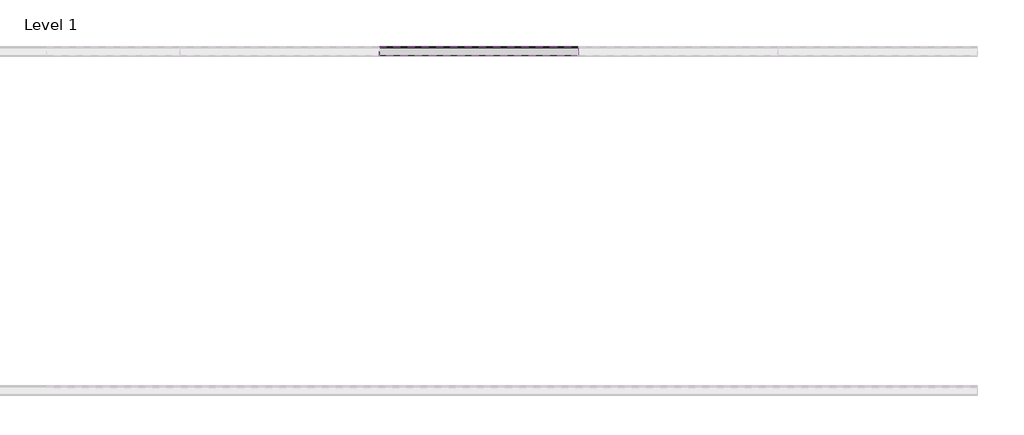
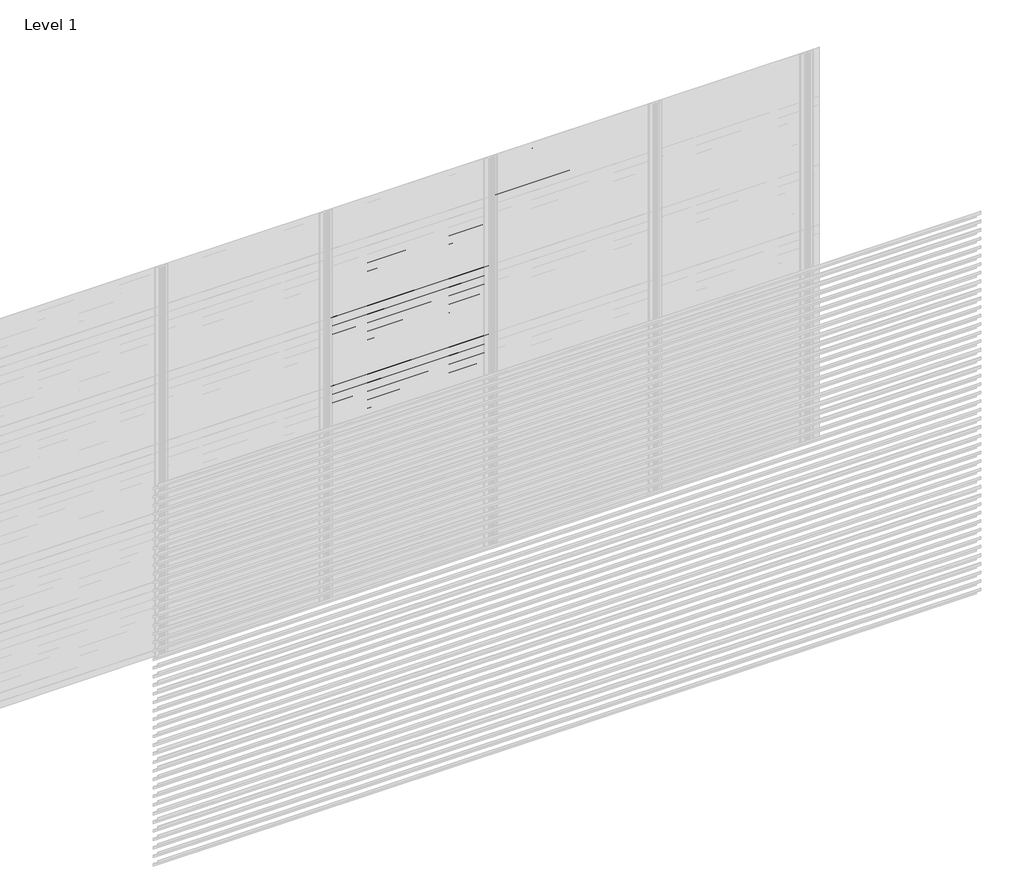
# One storey, part 22 of 540: 43 proxies.
"""IFC4 building model written with IfcOpenShell, lengths in millimetres."""

import ifcopenshell
import ifcopenshell.guid

model = None  # the IFC model being written
_history = None  # IfcOwnerHistory: only IFC2X3 demands one
_inside = {}  # id of a spatial element -> (the spatial element, [elements in it])
_under = {}  # id of a project, library or spatial element -> (it, [spatial elements below it])
_declared = {}  # id of a project -> (the project, [libraries it declares])
_typed = {}  # id of a type object -> (the type object, [elements of that type])
_made_of = {}  # id of a material, layer set ... -> (it, [elements and type objects made of it])


def new_model(schema):
    """Start an empty IFC model of exactly this schema.

    Asked for "IFC4X3", IfcOpenShell would pick the latest addendum, in which some entities
    have other attributes; the version numbers below select the first issue.
    IFC2X3 requires an IfcOwnerHistory on every rooted entity: one is made here for all.
    """
    global model, _history
    if schema == "IFC4X3":
        model = ifcopenshell.file(schema_version=(4, 3, 0, 0))
    else:
        model = ifcopenshell.file(schema=schema)
    _inside.clear()
    _under.clear()
    _declared.clear()
    _typed.clear()
    _made_of.clear()
    _history = None
    if model.schema == "IFC2X3":
        org = make("IfcOrganization", Name="unknown")
        user = make(
            "IfcPersonAndOrganization",
            ThePerson=make("IfcPerson", FamilyName="unknown"),
            TheOrganization=org,
        )
        app = make(
            "IfcApplication",
            ApplicationDeveloper=org,
            Version="unknown",
            ApplicationFullName="unknown",
            ApplicationIdentifier="unknown",
        )
        _history = make(
            "IfcOwnerHistory",
            OwningUser=user,
            OwningApplication=app,
            ChangeAction="ADDED",
            CreationDate=0,
        )
    return model


def make(cls, **values):
    """One entity of the class cls with the attributes given. An attribute that is None is left unset."""
    return model.create_entity(
        cls, **{name: value for name, value in values.items() if value is not None}
    )


def rooted(cls, **values):
    """An entity with a GlobalId (a new one), such as an element, a storey or a relation."""
    return make(cls, GlobalId=ifcopenshell.guid.new(), OwnerHistory=_history, **values)


def si_unit(unit_type, name, prefix=None):
    """IfcSIUnit, for example si_unit("LENGTHUNIT", "METRE", prefix="MILLI")."""
    return make("IfcSIUnit", UnitType=unit_type, Prefix=prefix, Name=name)


def assignment(units):
    """IfcUnitAssignment: the units of a project."""
    return None if units is None else make("IfcUnitAssignment", Units=units)


def point(xyz):
    """IfcCartesianPoint."""
    return None if xyz is None else make("IfcCartesianPoint", Coordinates=xyz)


def direction(xyz):
    """IfcDirection."""
    return None if xyz is None else make("IfcDirection", DirectionRatios=xyz)


def frame(location, z_axis=None, x_axis=None):
    """IfcAxis2Placement3D, a coordinate frame: its origin and axes. An axis left out is left unset."""
    return make(
        "IfcAxis2Placement3D",
        Location=point(location),
        Axis=direction(z_axis),
        RefDirection=direction(x_axis),
    )


def origin():
    """The frame at (0, 0, 0) with its axes left unset."""
    return frame((0.0, 0.0, 0.0))


def place(relative_to, where):
    """IfcLocalPlacement: puts the frame where relative to a parent placement (None: the world)."""
    return make(
        "IfcLocalPlacement", PlacementRelTo=relative_to, RelativePlacement=where
    )


def context(
    kind, dimensions, precision=None, world=None, true_north=None, identifier=None
):
    """IfcGeometricRepresentationContext, for example the 3D "Model" context."""
    return make(
        "IfcGeometricRepresentationContext",
        ContextIdentifier=identifier,
        ContextType=kind,
        CoordinateSpaceDimension=dimensions,
        Precision=precision,
        WorldCoordinateSystem=world,
        TrueNorth=true_north,
    )


def project(units=None, contexts=None):
    """IfcProject with its units and contexts."""
    return rooted(
        "IfcProject",
        Name="project",
        RepresentationContexts=contexts,
        UnitsInContext=assignment(units),
    )


def spatial(cls, under=None, at=None, **own):
    """A site, building, storey or space (cls), placed at a placement, below another one or the project."""
    s = rooted(cls, ObjectPlacement=at, **own)
    if under is not None:
        _under.setdefault(under.id(), (under, []))[1].append(s)
    return s


def faces_of(points, faces, orient=None, outer=None):
    """IfcFace entities. A face is a list of loops; a loop is a list of indices into points, from 0.

    orient and outer hold one flag for each loop. By default every Orientation is true, the
    first loop of a face is its IfcFaceOuterBound and the others are IfcFaceBound.
    """
    made = []
    for i, loops in enumerate(faces):
        bounds = []
        for j, loop in enumerate(loops):
            is_outer = j == 0 if outer is None else outer[i][j]
            bounds.append(
                make(
                    "IfcFaceOuterBound" if is_outer else "IfcFaceBound",
                    Bound=make("IfcPolyLoop", Polygon=[points[k] for k in loop]),
                    Orientation=True if orient is None else orient[i][j],
                )
            )
        made.append(make("IfcFace", Bounds=bounds))
    return made


def faceted_brep(points, faces, orient=None, outer=None, voids=None):
    """IfcFacetedBrep: a solid bounded by flat faces; with voids (closed shells), ...WithVoids."""
    shared = [point(p) for p in points]
    hull = make("IfcClosedShell", CfsFaces=faces_of(shared, faces, orient, outer))
    if voids is None:
        return make("IfcFacetedBrep", Outer=hull)
    return make(
        "IfcFacetedBrepWithVoids",
        Outer=hull,
        Voids=[
            make(cls, CfsFaces=faces_of(shared, fs, o, b)) for cls, fs, o, b in voids
        ],
    )


def shape(context_of_items, identifier, shape_type, items):
    """IfcShapeRepresentation: the items that make up one representation, for example the "Body"."""
    return make(
        "IfcShapeRepresentation",
        ContextOfItems=context_of_items,
        RepresentationIdentifier=identifier,
        RepresentationType=shape_type,
        Items=items,
    )


def made_of(thing, what):
    """Note that an element or type object is made of a material, layer set ...; save() writes the relation."""
    if what is not None:
        _made_of.setdefault(what.id(), (what, []))[1].append(thing)
    return thing


def element(
    cls,
    number,
    at=None,
    inside=None,
    cuts=None,
    type_object=None,
    material=None,
    context=None,
    identifier="Body",
    shape_type=None,
    held_by="IfcProductDefinitionShape",
    body=None,
    shapes=None,
    **own,
):
    """One element of the class cls, such as IfcWall. Its Tag is "e" and its number.

    at: its placement. inside: the storey or other place that contains it. cuts: it is an
    opening in that element (IfcRelVoidsElement). A single representation is given by context,
    identifier, shape_type and body (its items); several are given by shapes. held_by: the class
    of the entity that holds the representations. save() writes the other relations.
    """
    e = rooted(cls, Tag="e%d" % number, ObjectPlacement=at, **own)
    if body is not None:
        shapes = [shape(context, identifier, shape_type, body)]
    if shapes is not None:
        e.Representation = make(held_by, Representations=shapes)
    if inside is not None:
        _inside.setdefault(inside.id(), (inside, []))[1].append(e)
    if cuts is not None:
        rooted(
            "IfcRelVoidsElement", RelatingBuildingElement=cuts, RelatedOpeningElement=e
        )
    if type_object is not None:
        _typed.setdefault(type_object.id(), (type_object, []))[1].append(e)
    return made_of(e, material)


def aggregate(whole, parts):
    """IfcRelAggregates: a whole, such as a stair, and the parts it consists of."""
    return rooted("IfcRelAggregates", RelatingObject=whole, RelatedObjects=parts)


def save(model, path):
    """Write the relations noted so far, then the file.

    IfcRelAggregates (storeys below a building ...), IfcRelContainedInSpatialStructure (elements
    in a storey), IfcRelDefinesByType, IfcRelAssociatesMaterial and IfcRelDeclares: one each for
    every whole, place, type object, material and project.
    """
    for whole, parts in _under.values():
        aggregate(whole, parts)
    for where, things in _inside.values():
        rooted(
            "IfcRelContainedInSpatialStructure",
            RelatedElements=things,
            RelatingStructure=where,
        )
    for kind, things in _typed.values():
        rooted("IfcRelDefinesByType", RelatedObjects=things, RelatingType=kind)
    for what, things in _made_of.values():
        rooted("IfcRelAssociatesMaterial", RelatedObjects=things, RelatingMaterial=what)
    for by, libraries in _declared.values():
        rooted("IfcRelDeclares", RelatingContext=by, RelatedDefinitions=libraries)
    model.write(path)


model = new_model("IFC4")

# Units and contexts
model_context = context("Model", 3, world=origin())
ifc_project = project(units=[si_unit("LENGTHUNIT", "METRE", prefix="MILLI")], contexts=[model_context])

# Site, building, storey
site = spatial("IfcSite", under=ifc_project)
building = spatial("IfcBuilding", under=site)
storey = spatial("IfcBuildingStorey", under=building, Name="Level 1", Elevation=0.0)

# Proxies
placement = place(None, origin())
element("IfcBuildingElementProxy", 1, Name="Wall Sweeps", at=placement, inside=storey, context=model_context, shape_type="Brep", body=[
    faceted_brep([(4066.6208097, 7042.0270068, 2451.5), (4066.6208097, 6988.2770068, 2489.0285629), (4066.6208097, 6988.2770068, 2508.0), (4066.6208097, 6987.0270068, 2508.0), (4066.6208097, 6987.0270068, 2488.3158044), (4066.6208097, 7040.7770068, 2450.7872415), (4066.6208097, 7040.7770068, 2432.2216933), (4066.6208097, 7042.0270068, 2431.5), (2866.6208097, 7042.0270068, 2451.5), (2866.6208097, 7042.0270068, 2431.5), (2866.6208097, 7040.7770068, 2432.2216933), (2866.6208097, 7040.7770068, 2450.7872415), (2866.6208097, 6987.0270068, 2488.3158044), (2866.6208097, 6987.0270068, 2508.0), (2866.6208097, 6988.2770068, 2508.0), (2866.6208097, 6988.2770068, 2489.0285629)], [[[0, 1, 2, 3, 4, 5, 6, 7]], [[8, 9, 10, 11, 12, 13, 14, 15]], [[1, 0, 8, 15]], [[2, 1, 15, 14]], [[4, 3, 13, 12]], [[6, 5, 11, 10]], [[7, 6, 10, 9]], [[0, 7, 9, 8]], [[3, 2, 14, 13]], [[5, 4, 12, 11]]]),
])
element("IfcBuildingElementProxy", 2, Name="Wall Sweeps", at=placement, inside=storey, context=model_context, shape_type="Brep", body=[
    faceted_brep([(4066.6208097, 7042.0270068, 2385.5), (4066.6208097, 6988.2770068, 2423.0285629), (4066.6208097, 6988.2770068, 2442.0), (4066.6208097, 6987.0270068, 2442.0), (4066.6208097, 6987.0270068, 2422.3158044), (4066.6208097, 7040.7770068, 2384.7872415), (4066.6208097, 7040.7770068, 2366.2216933), (4066.6208097, 7042.0270068, 2365.5), (2866.6208097, 7042.0270068, 2385.5), (2866.6208097, 7042.0270068, 2365.5), (2866.6208097, 7040.7770068, 2366.2216933), (2866.6208097, 7040.7770068, 2384.7872415), (2866.6208097, 6987.0270068, 2422.3158044), (2866.6208097, 6987.0270068, 2442.0), (2866.6208097, 6988.2770068, 2442.0), (2866.6208097, 6988.2770068, 2423.0285629)], [[[0, 1, 2, 3, 4, 5, 6, 7]], [[8, 9, 10, 11, 12, 13, 14, 15]], [[1, 0, 8, 15]], [[2, 1, 15, 14]], [[4, 3, 13, 12]], [[6, 5, 11, 10]], [[7, 6, 10, 9]], [[0, 7, 9, 8]], [[3, 2, 14, 13]], [[5, 4, 12, 11]]]),
])
element("IfcBuildingElementProxy", 3, Name="Wall Sweeps", at=placement, inside=storey, context=model_context, shape_type="Brep", body=[
    faceted_brep([(4066.6208097, 7042.0270068, 2319.5), (4066.6208097, 6988.2770068, 2357.0285629), (4066.6208097, 6988.2770068, 2376.0), (4066.6208097, 6987.0270068, 2376.0), (4066.6208097, 6987.0270068, 2356.3158044), (4066.6208097, 7040.7770068, 2318.7872415), (4066.6208097, 7040.7770068, 2300.2216933), (4066.6208097, 7042.0270068, 2299.5), (2866.6208097, 7042.0270068, 2319.5), (2866.6208097, 7042.0270068, 2299.5), (2866.6208097, 7040.7770068, 2300.2216933), (2866.6208097, 7040.7770068, 2318.7872415), (2866.6208097, 6987.0270068, 2356.3158044), (2866.6208097, 6987.0270068, 2376.0), (2866.6208097, 6988.2770068, 2376.0), (2866.6208097, 6988.2770068, 2357.0285629)], [[[0, 1, 2, 3, 4, 5, 6, 7]], [[8, 9, 10, 11, 12, 13, 14, 15]], [[1, 0, 8, 15]], [[2, 1, 15, 14]], [[4, 3, 13, 12]], [[6, 5, 11, 10]], [[7, 6, 10, 9]], [[0, 7, 9, 8]], [[3, 2, 14, 13]], [[5, 4, 12, 11]]]),
])
element("IfcBuildingElementProxy", 4, Name="Wall Sweeps", at=placement, inside=storey, context=model_context, shape_type="Brep", body=[
    faceted_brep([(4066.6208097, 7042.0270068, 2253.5), (4066.6208097, 6988.2770068, 2291.0285629), (4066.6208097, 6988.2770068, 2310.0), (4066.6208097, 6987.0270068, 2310.0), (4066.6208097, 6987.0270068, 2290.3158044), (4066.6208097, 7040.7770068, 2252.7872415), (4066.6208097, 7040.7770068, 2234.2216933), (4066.6208097, 7042.0270068, 2233.5), (2866.6208097, 7042.0270068, 2253.5), (2866.6208097, 7042.0270068, 2233.5), (2866.6208097, 7040.7770068, 2234.2216933), (2866.6208097, 7040.7770068, 2252.7872415), (2866.6208097, 6987.0270068, 2290.3158044), (2866.6208097, 6987.0270068, 2310.0), (2866.6208097, 6988.2770068, 2310.0), (2866.6208097, 6988.2770068, 2291.0285629)], [[[0, 1, 2, 3, 4, 5, 6, 7]], [[8, 9, 10, 11, 12, 13, 14, 15]], [[1, 0, 8, 15]], [[2, 1, 15, 14]], [[4, 3, 13, 12]], [[6, 5, 11, 10]], [[7, 6, 10, 9]], [[0, 7, 9, 8]], [[3, 2, 14, 13]], [[5, 4, 12, 11]]]),
])
element("IfcBuildingElementProxy", 5, Name="Wall Sweeps", at=placement, inside=storey, context=model_context, shape_type="Brep", body=[
    faceted_brep([(4066.6208097, 7042.0270068, 2187.5), (4066.6208097, 6988.2770068, 2225.0285629), (4066.6208097, 6988.2770068, 2244.0), (4066.6208097, 6987.0270068, 2244.0), (4066.6208097, 6987.0270068, 2224.3158044), (4066.6208097, 7040.7770068, 2186.7872415), (4066.6208097, 7040.7770068, 2168.2216933), (4066.6208097, 7042.0270068, 2167.5), (2866.6208097, 7042.0270068, 2187.5), (2866.6208097, 7042.0270068, 2167.5), (2866.6208097, 7040.7770068, 2168.2216933), (2866.6208097, 7040.7770068, 2186.7872415), (2866.6208097, 6987.0270068, 2224.3158044), (2866.6208097, 6987.0270068, 2244.0), (2866.6208097, 6988.2770068, 2244.0), (2866.6208097, 6988.2770068, 2225.0285629)], [[[0, 1, 2, 3, 4, 5, 6, 7]], [[8, 9, 10, 11, 12, 13, 14, 15]], [[1, 0, 8, 15]], [[2, 1, 15, 14]], [[4, 3, 13, 12]], [[6, 5, 11, 10]], [[7, 6, 10, 9]], [[0, 7, 9, 8]], [[3, 2, 14, 13]], [[5, 4, 12, 11]]]),
])
element("IfcBuildingElementProxy", 6, Name="Wall Sweeps", at=placement, inside=storey, context=model_context, shape_type="Brep", body=[
    faceted_brep([(4066.6208097, 7042.0270068, 2121.5), (4066.6208097, 6988.2770068, 2159.0285629), (4066.6208097, 6988.2770068, 2178.0), (4066.6208097, 6987.0270068, 2178.0), (4066.6208097, 6987.0270068, 2158.3158044), (4066.6208097, 7040.7770068, 2120.7872415), (4066.6208097, 7040.7770068, 2102.2216933), (4066.6208097, 7042.0270068, 2101.5), (2866.6208097, 7042.0270068, 2121.5), (2866.6208097, 7042.0270068, 2101.5), (2866.6208097, 7040.7770068, 2102.2216933), (2866.6208097, 7040.7770068, 2120.7872415), (2866.6208097, 6987.0270068, 2158.3158044), (2866.6208097, 6987.0270068, 2178.0), (2866.6208097, 6988.2770068, 2178.0), (2866.6208097, 6988.2770068, 2159.0285629)], [[[0, 1, 2, 3, 4, 5, 6, 7]], [[8, 9, 10, 11, 12, 13, 14, 15]], [[1, 0, 8, 15]], [[2, 1, 15, 14]], [[4, 3, 13, 12]], [[6, 5, 11, 10]], [[7, 6, 10, 9]], [[0, 7, 9, 8]], [[3, 2, 14, 13]], [[5, 4, 12, 11]]]),
])
element("IfcBuildingElementProxy", 7, Name="Wall Sweeps", at=placement, inside=storey, context=model_context, shape_type="Brep", body=[
    faceted_brep([(4066.6208097, 7042.0270068, 2055.5), (4066.6208097, 6988.2770068, 2093.0285629), (4066.6208097, 6988.2770068, 2112.0), (4066.6208097, 6987.0270068, 2112.0), (4066.6208097, 6987.0270068, 2092.3158044), (4066.6208097, 7040.7770068, 2054.7872415), (4066.6208097, 7040.7770068, 2036.2216933), (4066.6208097, 7042.0270068, 2035.5), (2866.6208097, 7042.0270068, 2055.5), (2866.6208097, 7042.0270068, 2035.5), (2866.6208097, 7040.7770068, 2036.2216933), (2866.6208097, 7040.7770068, 2054.7872415), (2866.6208097, 6987.0270068, 2092.3158044), (2866.6208097, 6987.0270068, 2112.0), (2866.6208097, 6988.2770068, 2112.0), (2866.6208097, 6988.2770068, 2093.0285629)], [[[0, 1, 2, 3, 4, 5, 6, 7]], [[8, 9, 10, 11, 12, 13, 14, 15]], [[1, 0, 8, 15]], [[2, 1, 15, 14]], [[4, 3, 13, 12]], [[6, 5, 11, 10]], [[7, 6, 10, 9]], [[0, 7, 9, 8]], [[3, 2, 14, 13]], [[5, 4, 12, 11]]]),
])
element("IfcBuildingElementProxy", 8, Name="Wall Sweeps", at=placement, inside=storey, context=model_context, shape_type="Brep", body=[
    faceted_brep([(4066.6208097, 7042.0270068, 1989.5), (4066.6208097, 6988.2770068, 2027.0285629), (4066.6208097, 6988.2770068, 2046.0), (4066.6208097, 6987.0270068, 2046.0), (4066.6208097, 6987.0270068, 2026.3158044), (4066.6208097, 7040.7770068, 1988.7872415), (4066.6208097, 7040.7770068, 1970.2216933), (4066.6208097, 7042.0270068, 1969.5), (2866.6208097, 7042.0270068, 1989.5), (2866.6208097, 7042.0270068, 1969.5), (2866.6208097, 7040.7770068, 1970.2216933), (2866.6208097, 7040.7770068, 1988.7872415), (2866.6208097, 6987.0270068, 2026.3158044), (2866.6208097, 6987.0270068, 2046.0), (2866.6208097, 6988.2770068, 2046.0), (2866.6208097, 6988.2770068, 2027.0285629)], [[[0, 1, 2, 3, 4, 5, 6, 7]], [[8, 9, 10, 11, 12, 13, 14, 15]], [[1, 0, 8, 15]], [[2, 1, 15, 14]], [[4, 3, 13, 12]], [[6, 5, 11, 10]], [[7, 6, 10, 9]], [[0, 7, 9, 8]], [[3, 2, 14, 13]], [[5, 4, 12, 11]]]),
])
element("IfcBuildingElementProxy", 9, Name="Wall Sweeps", at=placement, inside=storey, context=model_context, shape_type="Brep", body=[
    faceted_brep([(4066.6208097, 7042.0270068, 1923.5), (4066.6208097, 6988.2770068, 1961.0285629), (4066.6208097, 6988.2770068, 1980.0), (4066.6208097, 6987.0270068, 1980.0), (4066.6208097, 6987.0270068, 1960.3158044), (4066.6208097, 7040.7770068, 1922.7872415), (4066.6208097, 7040.7770068, 1904.2216933), (4066.6208097, 7042.0270068, 1903.5), (2866.6208097, 7042.0270068, 1923.5), (2866.6208097, 7042.0270068, 1903.5), (2866.6208097, 7040.7770068, 1904.2216933), (2866.6208097, 7040.7770068, 1922.7872415), (2866.6208097, 6987.0270068, 1960.3158044), (2866.6208097, 6987.0270068, 1980.0), (2866.6208097, 6988.2770068, 1980.0), (2866.6208097, 6988.2770068, 1961.0285629)], [[[0, 1, 2, 3, 4, 5, 6, 7]], [[8, 9, 10, 11, 12, 13, 14, 15]], [[1, 0, 8, 15]], [[2, 1, 15, 14]], [[4, 3, 13, 12]], [[6, 5, 11, 10]], [[7, 6, 10, 9]], [[0, 7, 9, 8]], [[3, 2, 14, 13]], [[5, 4, 12, 11]]]),
])
element("IfcBuildingElementProxy", 10, Name="Wall Sweeps", at=placement, inside=storey, context=model_context, shape_type="Brep", body=[
    faceted_brep([(4066.6208097, 7042.0270068, 1857.5), (4066.6208097, 6988.2770068, 1895.0285629), (4066.6208097, 6988.2770068, 1914.0), (4066.6208097, 6987.0270068, 1914.0), (4066.6208097, 6987.0270068, 1894.3158044), (4066.6208097, 7040.7770068, 1856.7872415), (4066.6208097, 7040.7770068, 1838.2216933), (4066.6208097, 7042.0270068, 1837.5), (2866.6208097, 7042.0270068, 1857.5), (2866.6208097, 7042.0270068, 1837.5), (2866.6208097, 7040.7770068, 1838.2216933), (2866.6208097, 7040.7770068, 1856.7872415), (2866.6208097, 6987.0270068, 1894.3158044), (2866.6208097, 6987.0270068, 1914.0), (2866.6208097, 6988.2770068, 1914.0), (2866.6208097, 6988.2770068, 1895.0285629)], [[[0, 1, 2, 3, 4, 5, 6, 7]], [[8, 9, 10, 11, 12, 13, 14, 15]], [[1, 0, 8, 15]], [[2, 1, 15, 14]], [[4, 3, 13, 12]], [[6, 5, 11, 10]], [[7, 6, 10, 9]], [[0, 7, 9, 8]], [[3, 2, 14, 13]], [[5, 4, 12, 11]]]),
])
element("IfcBuildingElementProxy", 11, Name="Wall Sweeps", at=placement, inside=storey, context=model_context, shape_type="Brep", body=[
    faceted_brep([(4066.6208097, 7042.0270068, 1791.5), (4066.6208097, 6988.2770068, 1829.0285629), (4066.6208097, 6988.2770068, 1848.0), (4066.6208097, 6987.0270068, 1848.0), (4066.6208097, 6987.0270068, 1828.3158044), (4066.6208097, 7040.7770068, 1790.7872415), (4066.6208097, 7040.7770068, 1772.2216933), (4066.6208097, 7042.0270068, 1771.5), (2866.6208097, 7042.0270068, 1791.5), (2866.6208097, 7042.0270068, 1771.5), (2866.6208097, 7040.7770068, 1772.2216933), (2866.6208097, 7040.7770068, 1790.7872415), (2866.6208097, 6987.0270068, 1828.3158044), (2866.6208097, 6987.0270068, 1848.0), (2866.6208097, 6988.2770068, 1848.0), (2866.6208097, 6988.2770068, 1829.0285629)], [[[0, 1, 2, 3, 4, 5, 6, 7]], [[8, 9, 10, 11, 12, 13, 14, 15]], [[1, 0, 8, 15]], [[2, 1, 15, 14]], [[4, 3, 13, 12]], [[6, 5, 11, 10]], [[7, 6, 10, 9]], [[0, 7, 9, 8]], [[3, 2, 14, 13]], [[5, 4, 12, 11]]]),
])
element("IfcBuildingElementProxy", 12, Name="Wall Sweeps", at=placement, inside=storey, context=model_context, shape_type="Brep", body=[
    faceted_brep([(4066.6208097, 7042.0270068, 1725.5), (4066.6208097, 6988.2770068, 1763.0285629), (4066.6208097, 6988.2770068, 1782.0), (4066.6208097, 6987.0270068, 1782.0), (4066.6208097, 6987.0270068, 1762.3158044), (4066.6208097, 7040.7770068, 1724.7872415), (4066.6208097, 7040.7770068, 1706.2216933), (4066.6208097, 7042.0270068, 1705.5), (2866.6208097, 7042.0270068, 1725.5), (2866.6208097, 7042.0270068, 1705.5), (2866.6208097, 7040.7770068, 1706.2216933), (2866.6208097, 7040.7770068, 1724.7872415), (2866.6208097, 6987.0270068, 1762.3158044), (2866.6208097, 6987.0270068, 1782.0), (2866.6208097, 6988.2770068, 1782.0), (2866.6208097, 6988.2770068, 1763.0285629)], [[[0, 1, 2, 3, 4, 5, 6, 7]], [[8, 9, 10, 11, 12, 13, 14, 15]], [[1, 0, 8, 15]], [[2, 1, 15, 14]], [[4, 3, 13, 12]], [[6, 5, 11, 10]], [[7, 6, 10, 9]], [[0, 7, 9, 8]], [[3, 2, 14, 13]], [[5, 4, 12, 11]]]),
])
element("IfcBuildingElementProxy", 13, Name="Wall Sweeps", at=placement, inside=storey, context=model_context, shape_type="Brep", body=[
    faceted_brep([(4066.6208097, 7042.0270068, 1659.5), (4066.6208097, 6988.2770068, 1697.0285629), (4066.6208097, 6988.2770068, 1716.0), (4066.6208097, 6987.0270068, 1716.0), (4066.6208097, 6987.0270068, 1696.3158044), (4066.6208097, 7040.7770068, 1658.7872415), (4066.6208097, 7040.7770068, 1640.2216933), (4066.6208097, 7042.0270068, 1639.5), (2866.6208097, 7042.0270068, 1659.5), (2866.6208097, 7042.0270068, 1639.5), (2866.6208097, 7040.7770068, 1640.2216933), (2866.6208097, 7040.7770068, 1658.7872415), (2866.6208097, 6987.0270068, 1696.3158044), (2866.6208097, 6987.0270068, 1716.0), (2866.6208097, 6988.2770068, 1716.0), (2866.6208097, 6988.2770068, 1697.0285629)], [[[0, 1, 2, 3, 4, 5, 6, 7]], [[8, 9, 10, 11, 12, 13, 14, 15]], [[1, 0, 8, 15]], [[2, 1, 15, 14]], [[4, 3, 13, 12]], [[6, 5, 11, 10]], [[7, 6, 10, 9]], [[0, 7, 9, 8]], [[3, 2, 14, 13]], [[5, 4, 12, 11]]]),
])
element("IfcBuildingElementProxy", 14, Name="Wall Sweeps", at=placement, inside=storey, context=model_context, shape_type="Brep", body=[
    faceted_brep([(4066.6208097, 7042.0270068, 1593.5), (4066.6208097, 6988.2770068, 1631.0285629), (4066.6208097, 6988.2770068, 1650.0), (4066.6208097, 6987.0270068, 1650.0), (4066.6208097, 6987.0270068, 1630.3158044), (4066.6208097, 7040.7770068, 1592.7872415), (4066.6208097, 7040.7770068, 1574.2216933), (4066.6208097, 7042.0270068, 1573.5), (2866.6208097, 7042.0270068, 1593.5), (2866.6208097, 7042.0270068, 1573.5), (2866.6208097, 7040.7770068, 1574.2216933), (2866.6208097, 7040.7770068, 1592.7872415), (2866.6208097, 6987.0270068, 1630.3158044), (2866.6208097, 6987.0270068, 1650.0), (2866.6208097, 6988.2770068, 1650.0), (2866.6208097, 6988.2770068, 1631.0285629)], [[[0, 1, 2, 3, 4, 5, 6, 7]], [[8, 9, 10, 11, 12, 13, 14, 15]], [[1, 0, 8, 15]], [[2, 1, 15, 14]], [[4, 3, 13, 12]], [[6, 5, 11, 10]], [[7, 6, 10, 9]], [[0, 7, 9, 8]], [[3, 2, 14, 13]], [[5, 4, 12, 11]]]),
])
element("IfcBuildingElementProxy", 15, Name="Wall Sweeps", at=placement, inside=storey, context=model_context, shape_type="Brep", body=[
    faceted_brep([(4066.6208097, 7042.0270068, 1527.5), (4066.6208097, 6988.2770068, 1565.0285629), (4066.6208097, 6988.2770068, 1584.0), (4066.6208097, 6987.0270068, 1584.0), (4066.6208097, 6987.0270068, 1564.3158044), (4066.6208097, 7040.7770068, 1526.7872415), (4066.6208097, 7040.7770068, 1508.2216933), (4066.6208097, 7042.0270068, 1507.5), (2866.6208097, 7042.0270068, 1527.5), (2866.6208097, 7042.0270068, 1507.5), (2866.6208097, 7040.7770068, 1508.2216933), (2866.6208097, 7040.7770068, 1526.7872415), (2866.6208097, 6987.0270068, 1564.3158044), (2866.6208097, 6987.0270068, 1584.0), (2866.6208097, 6988.2770068, 1584.0), (2866.6208097, 6988.2770068, 1565.0285629)], [[[0, 1, 2, 3, 4, 5, 6, 7]], [[8, 9, 10, 11, 12, 13, 14, 15]], [[1, 0, 8, 15]], [[2, 1, 15, 14]], [[4, 3, 13, 12]], [[6, 5, 11, 10]], [[7, 6, 10, 9]], [[0, 7, 9, 8]], [[3, 2, 14, 13]], [[5, 4, 12, 11]]]),
])
element("IfcBuildingElementProxy", 16, Name="Wall Sweeps", at=placement, inside=storey, context=model_context, shape_type="Brep", body=[
    faceted_brep([(4066.6208097, 7042.0270068, 1461.5), (4066.6208097, 6988.2770068, 1499.0285629), (4066.6208097, 6988.2770068, 1518.0), (4066.6208097, 6987.0270068, 1518.0), (4066.6208097, 6987.0270068, 1498.3158044), (4066.6208097, 7040.7770068, 1460.7872415), (4066.6208097, 7040.7770068, 1442.2216933), (4066.6208097, 7042.0270068, 1441.5), (2866.6208097, 7042.0270068, 1461.5), (2866.6208097, 7042.0270068, 1441.5), (2866.6208097, 7040.7770068, 1442.2216933), (2866.6208097, 7040.7770068, 1460.7872415), (2866.6208097, 6987.0270068, 1498.3158044), (2866.6208097, 6987.0270068, 1518.0), (2866.6208097, 6988.2770068, 1518.0), (2866.6208097, 6988.2770068, 1499.0285629)], [[[0, 1, 2, 3, 4, 5, 6, 7]], [[8, 9, 10, 11, 12, 13, 14, 15]], [[1, 0, 8, 15]], [[2, 1, 15, 14]], [[4, 3, 13, 12]], [[6, 5, 11, 10]], [[7, 6, 10, 9]], [[0, 7, 9, 8]], [[3, 2, 14, 13]], [[5, 4, 12, 11]]]),
])
element("IfcBuildingElementProxy", 17, Name="Wall Sweeps", at=placement, inside=storey, context=model_context, shape_type="Brep", body=[
    faceted_brep([(4066.6208097, 7042.0270068, 1395.5), (4066.6208097, 6988.2770068, 1433.0285629), (4066.6208097, 6988.2770068, 1452.0), (4066.6208097, 6987.0270068, 1452.0), (4066.6208097, 6987.0270068, 1432.3158044), (4066.6208097, 7040.7770068, 1394.7872415), (4066.6208097, 7040.7770068, 1376.2216933), (4066.6208097, 7042.0270068, 1375.5), (2866.6208097, 7042.0270068, 1395.5), (2866.6208097, 7042.0270068, 1375.5), (2866.6208097, 7040.7770068, 1376.2216933), (2866.6208097, 7040.7770068, 1394.7872415), (2866.6208097, 6987.0270068, 1432.3158044), (2866.6208097, 6987.0270068, 1452.0), (2866.6208097, 6988.2770068, 1452.0), (2866.6208097, 6988.2770068, 1433.0285629)], [[[0, 1, 2, 3, 4, 5, 6, 7]], [[8, 9, 10, 11, 12, 13, 14, 15]], [[1, 0, 8, 15]], [[2, 1, 15, 14]], [[4, 3, 13, 12]], [[6, 5, 11, 10]], [[7, 6, 10, 9]], [[0, 7, 9, 8]], [[3, 2, 14, 13]], [[5, 4, 12, 11]]]),
])
element("IfcBuildingElementProxy", 18, Name="Wall Sweeps", at=placement, inside=storey, context=model_context, shape_type="Brep", body=[
    faceted_brep([(4066.6208097, 7042.0270068, 1329.5), (4066.6208097, 6988.2770068, 1367.0285629), (4066.6208097, 6988.2770068, 1386.0), (4066.6208097, 6987.0270068, 1386.0), (4066.6208097, 6987.0270068, 1366.3158044), (4066.6208097, 7040.7770068, 1328.7872415), (4066.6208097, 7040.7770068, 1310.2216933), (4066.6208097, 7042.0270068, 1309.5), (2866.6208097, 7042.0270068, 1329.5), (2866.6208097, 7042.0270068, 1309.5), (2866.6208097, 7040.7770068, 1310.2216933), (2866.6208097, 7040.7770068, 1328.7872415), (2866.6208097, 6987.0270068, 1366.3158044), (2866.6208097, 6987.0270068, 1386.0), (2866.6208097, 6988.2770068, 1386.0), (2866.6208097, 6988.2770068, 1367.0285629)], [[[0, 1, 2, 3, 4, 5, 6, 7]], [[8, 9, 10, 11, 12, 13, 14, 15]], [[1, 0, 8, 15]], [[2, 1, 15, 14]], [[4, 3, 13, 12]], [[6, 5, 11, 10]], [[7, 6, 10, 9]], [[0, 7, 9, 8]], [[3, 2, 14, 13]], [[5, 4, 12, 11]]]),
])
element("IfcBuildingElementProxy", 19, Name="Wall Sweeps", at=placement, inside=storey, context=model_context, shape_type="Brep", body=[
    faceted_brep([(4066.6208097, 7042.0270068, 1263.5), (4066.6208097, 6988.2770068, 1301.0285629), (4066.6208097, 6988.2770068, 1320.0), (4066.6208097, 6987.0270068, 1320.0), (4066.6208097, 6987.0270068, 1300.3158044), (4066.6208097, 7040.7770068, 1262.7872415), (4066.6208097, 7040.7770068, 1244.2216933), (4066.6208097, 7042.0270068, 1243.5), (2866.6208097, 7042.0270068, 1263.5), (2866.6208097, 7042.0270068, 1243.5), (2866.6208097, 7040.7770068, 1244.2216933), (2866.6208097, 7040.7770068, 1262.7872415), (2866.6208097, 6987.0270068, 1300.3158044), (2866.6208097, 6987.0270068, 1320.0), (2866.6208097, 6988.2770068, 1320.0), (2866.6208097, 6988.2770068, 1301.0285629)], [[[0, 1, 2, 3, 4, 5, 6, 7]], [[8, 9, 10, 11, 12, 13, 14, 15]], [[1, 0, 8, 15]], [[2, 1, 15, 14]], [[4, 3, 13, 12]], [[6, 5, 11, 10]], [[7, 6, 10, 9]], [[0, 7, 9, 8]], [[3, 2, 14, 13]], [[5, 4, 12, 11]]]),
])
element("IfcBuildingElementProxy", 20, Name="Wall Sweeps", at=placement, inside=storey, context=model_context, shape_type="Brep", body=[
    faceted_brep([(4066.6208097, 7042.0270068, 1197.5), (4066.6208097, 6988.2770068, 1235.0285629), (4066.6208097, 6988.2770068, 1254.0), (4066.6208097, 6987.0270068, 1254.0), (4066.6208097, 6987.0270068, 1234.3158044), (4066.6208097, 7040.7770068, 1196.7872415), (4066.6208097, 7040.7770068, 1178.2216933), (4066.6208097, 7042.0270068, 1177.5), (2866.6208097, 7042.0270068, 1197.5), (2866.6208097, 7042.0270068, 1177.5), (2866.6208097, 7040.7770068, 1178.2216933), (2866.6208097, 7040.7770068, 1196.7872415), (2866.6208097, 6987.0270068, 1234.3158044), (2866.6208097, 6987.0270068, 1254.0), (2866.6208097, 6988.2770068, 1254.0), (2866.6208097, 6988.2770068, 1235.0285629)], [[[0, 1, 2, 3, 4, 5, 6, 7]], [[8, 9, 10, 11, 12, 13, 14, 15]], [[1, 0, 8, 15]], [[2, 1, 15, 14]], [[4, 3, 13, 12]], [[6, 5, 11, 10]], [[7, 6, 10, 9]], [[0, 7, 9, 8]], [[3, 2, 14, 13]], [[5, 4, 12, 11]]]),
])
element("IfcBuildingElementProxy", 21, Name="Wall Sweeps", at=placement, inside=storey, context=model_context, shape_type="Brep", body=[
    faceted_brep([(4066.6208097, 7042.0270068, 1131.5), (4066.6208097, 6988.2770068, 1169.0285629), (4066.6208097, 6988.2770068, 1188.0), (4066.6208097, 6987.0270068, 1188.0), (4066.6208097, 6987.0270068, 1168.3158044), (4066.6208097, 7040.7770068, 1130.7872415), (4066.6208097, 7040.7770068, 1112.2216933), (4066.6208097, 7042.0270068, 1111.5), (2866.6208097, 7042.0270068, 1131.5), (2866.6208097, 7042.0270068, 1111.5), (2866.6208097, 7040.7770068, 1112.2216933), (2866.6208097, 7040.7770068, 1130.7872415), (2866.6208097, 6987.0270068, 1168.3158044), (2866.6208097, 6987.0270068, 1188.0), (2866.6208097, 6988.2770068, 1188.0), (2866.6208097, 6988.2770068, 1169.0285629)], [[[0, 1, 2, 3, 4, 5, 6, 7]], [[8, 9, 10, 11, 12, 13, 14, 15]], [[1, 0, 8, 15]], [[2, 1, 15, 14]], [[4, 3, 13, 12]], [[6, 5, 11, 10]], [[7, 6, 10, 9]], [[0, 7, 9, 8]], [[3, 2, 14, 13]], [[5, 4, 12, 11]]]),
])
element("IfcBuildingElementProxy", 22, Name="Wall Sweeps", at=placement, inside=storey, context=model_context, shape_type="Brep", body=[
    faceted_brep([(4066.6208097, 7042.0270068, 1065.5), (4066.6208097, 6988.2770068, 1103.0285629), (4066.6208097, 6988.2770068, 1122.0), (4066.6208097, 6987.0270068, 1122.0), (4066.6208097, 6987.0270068, 1102.3158044), (4066.6208097, 7040.7770068, 1064.7872415), (4066.6208097, 7040.7770068, 1046.2216933), (4066.6208097, 7042.0270068, 1045.5), (2866.6208097, 7042.0270068, 1065.5), (2866.6208097, 7042.0270068, 1045.5), (2866.6208097, 7040.7770068, 1046.2216933), (2866.6208097, 7040.7770068, 1064.7872415), (2866.6208097, 6987.0270068, 1102.3158044), (2866.6208097, 6987.0270068, 1122.0), (2866.6208097, 6988.2770068, 1122.0), (2866.6208097, 6988.2770068, 1103.0285629)], [[[0, 1, 2, 3, 4, 5, 6, 7]], [[8, 9, 10, 11, 12, 13, 14, 15]], [[1, 0, 8, 15]], [[2, 1, 15, 14]], [[4, 3, 13, 12]], [[6, 5, 11, 10]], [[7, 6, 10, 9]], [[0, 7, 9, 8]], [[3, 2, 14, 13]], [[5, 4, 12, 11]]]),
])
element("IfcBuildingElementProxy", 23, Name="Wall Sweeps", at=placement, inside=storey, context=model_context, shape_type="Brep", body=[
    faceted_brep([(4066.6208097, 7042.0270068, 999.5), (4066.6208097, 6988.2770068, 1037.0285629), (4066.6208097, 6988.2770068, 1056.0), (4066.6208097, 6987.0270068, 1056.0), (4066.6208097, 6987.0270068, 1036.3158044), (4066.6208097, 7040.7770068, 998.7872415), (4066.6208097, 7040.7770068, 980.2216933), (4066.6208097, 7042.0270068, 979.5), (2866.6208097, 7042.0270068, 999.5), (2866.6208097, 7042.0270068, 979.5), (2866.6208097, 7040.7770068, 980.2216933), (2866.6208097, 7040.7770068, 998.7872415), (2866.6208097, 6987.0270068, 1036.3158044), (2866.6208097, 6987.0270068, 1056.0), (2866.6208097, 6988.2770068, 1056.0), (2866.6208097, 6988.2770068, 1037.0285629)], [[[0, 1, 2, 3, 4, 5, 6, 7]], [[8, 9, 10, 11, 12, 13, 14, 15]], [[1, 0, 8, 15]], [[2, 1, 15, 14]], [[4, 3, 13, 12]], [[6, 5, 11, 10]], [[7, 6, 10, 9]], [[0, 7, 9, 8]], [[3, 2, 14, 13]], [[5, 4, 12, 11]]]),
])
element("IfcBuildingElementProxy", 24, Name="Wall Sweeps", at=placement, inside=storey, context=model_context, shape_type="Brep", body=[
    faceted_brep([(4066.6208097, 7042.0270068, 933.5), (4066.6208097, 6988.2770068, 971.0285629), (4066.6208097, 6988.2770068, 990.0), (4066.6208097, 6987.0270068, 990.0), (4066.6208097, 6987.0270068, 970.3158044), (4066.6208097, 7040.7770068, 932.7872415), (4066.6208097, 7040.7770068, 914.2216933), (4066.6208097, 7042.0270068, 913.5), (2866.6208097, 7042.0270068, 933.5), (2866.6208097, 7042.0270068, 913.5), (2866.6208097, 7040.7770068, 914.2216933), (2866.6208097, 7040.7770068, 932.7872415), (2866.6208097, 6987.0270068, 970.3158044), (2866.6208097, 6987.0270068, 990.0), (2866.6208097, 6988.2770068, 990.0), (2866.6208097, 6988.2770068, 971.0285629)], [[[0, 1, 2, 3, 4, 5, 6, 7]], [[8, 9, 10, 11, 12, 13, 14, 15]], [[1, 0, 8, 15]], [[2, 1, 15, 14]], [[4, 3, 13, 12]], [[6, 5, 11, 10]], [[7, 6, 10, 9]], [[0, 7, 9, 8]], [[3, 2, 14, 13]], [[5, 4, 12, 11]]]),
])
element("IfcBuildingElementProxy", 25, Name="Wall Sweeps", at=placement, inside=storey, context=model_context, shape_type="Brep", body=[
    faceted_brep([(4066.6208097, 7042.0270068, 867.5), (4066.6208097, 6988.2770068, 905.0285629), (4066.6208097, 6988.2770068, 924.0), (4066.6208097, 6987.0270068, 924.0), (4066.6208097, 6987.0270068, 904.3158044), (4066.6208097, 7040.7770068, 866.7872415), (4066.6208097, 7040.7770068, 848.2216933), (4066.6208097, 7042.0270068, 847.5), (2866.6208097, 7042.0270068, 867.5), (2866.6208097, 7042.0270068, 847.5), (2866.6208097, 7040.7770068, 848.2216933), (2866.6208097, 7040.7770068, 866.7872415), (2866.6208097, 6987.0270068, 904.3158044), (2866.6208097, 6987.0270068, 924.0), (2866.6208097, 6988.2770068, 924.0), (2866.6208097, 6988.2770068, 905.0285629)], [[[0, 1, 2, 3, 4, 5, 6, 7]], [[8, 9, 10, 11, 12, 13, 14, 15]], [[1, 0, 8, 15]], [[2, 1, 15, 14]], [[4, 3, 13, 12]], [[6, 5, 11, 10]], [[7, 6, 10, 9]], [[0, 7, 9, 8]], [[3, 2, 14, 13]], [[5, 4, 12, 11]]]),
])
element("IfcBuildingElementProxy", 26, Name="Wall Sweeps", at=placement, inside=storey, context=model_context, shape_type="Brep", body=[
    faceted_brep([(4066.6208097, 7042.0270068, 801.5), (4066.6208097, 6988.2770068, 839.0285629), (4066.6208097, 6988.2770068, 858.0), (4066.6208097, 6987.0270068, 858.0), (4066.6208097, 6987.0270068, 838.3158044), (4066.6208097, 7040.7770068, 800.7872415), (4066.6208097, 7040.7770068, 782.2216933), (4066.6208097, 7042.0270068, 781.5), (2866.6208097, 7042.0270068, 801.5), (2866.6208097, 7042.0270068, 781.5), (2866.6208097, 7040.7770068, 782.2216933), (2866.6208097, 7040.7770068, 800.7872415), (2866.6208097, 6987.0270068, 838.3158044), (2866.6208097, 6987.0270068, 858.0), (2866.6208097, 6988.2770068, 858.0), (2866.6208097, 6988.2770068, 839.0285629)], [[[0, 1, 2, 3, 4, 5, 6, 7]], [[8, 9, 10, 11, 12, 13, 14, 15]], [[1, 0, 8, 15]], [[2, 1, 15, 14]], [[4, 3, 13, 12]], [[6, 5, 11, 10]], [[7, 6, 10, 9]], [[0, 7, 9, 8]], [[3, 2, 14, 13]], [[5, 4, 12, 11]]]),
])
element("IfcBuildingElementProxy", 27, Name="Wall Sweeps", at=placement, inside=storey, context=model_context, shape_type="Brep", body=[
    faceted_brep([(4066.6208097, 7042.0270068, 735.5), (4066.6208097, 6988.2770068, 773.0285629), (4066.6208097, 6988.2770068, 792.0), (4066.6208097, 6987.0270068, 792.0), (4066.6208097, 6987.0270068, 772.3158044), (4066.6208097, 7040.7770068, 734.7872415), (4066.6208097, 7040.7770068, 716.2216933), (4066.6208097, 7042.0270068, 715.5), (2866.6208097, 7042.0270068, 735.5), (2866.6208097, 7042.0270068, 715.5), (2866.6208097, 7040.7770068, 716.2216933), (2866.6208097, 7040.7770068, 734.7872415), (2866.6208097, 6987.0270068, 772.3158044), (2866.6208097, 6987.0270068, 792.0), (2866.6208097, 6988.2770068, 792.0), (2866.6208097, 6988.2770068, 773.0285629)], [[[0, 1, 2, 3, 4, 5, 6, 7]], [[8, 9, 10, 11, 12, 13, 14, 15]], [[1, 0, 8, 15]], [[2, 1, 15, 14]], [[4, 3, 13, 12]], [[6, 5, 11, 10]], [[7, 6, 10, 9]], [[0, 7, 9, 8]], [[3, 2, 14, 13]], [[5, 4, 12, 11]]]),
])
element("IfcBuildingElementProxy", 28, Name="Wall Sweeps", at=placement, inside=storey, context=model_context, shape_type="Brep", body=[
    faceted_brep([(4066.6208097, 7042.0270068, 669.5), (4066.6208097, 6988.2770068, 707.0285629), (4066.6208097, 6988.2770068, 726.0), (4066.6208097, 6987.0270068, 726.0), (4066.6208097, 6987.0270068, 706.3158044), (4066.6208097, 7040.7770068, 668.7872415), (4066.6208097, 7040.7770068, 650.2216933), (4066.6208097, 7042.0270068, 649.5), (2866.6208097, 7042.0270068, 669.5), (2866.6208097, 7042.0270068, 649.5), (2866.6208097, 7040.7770068, 650.2216933), (2866.6208097, 7040.7770068, 668.7872415), (2866.6208097, 6987.0270068, 706.3158044), (2866.6208097, 6987.0270068, 726.0), (2866.6208097, 6988.2770068, 726.0), (2866.6208097, 6988.2770068, 707.0285629)], [[[0, 1, 2, 3, 4, 5, 6, 7]], [[8, 9, 10, 11, 12, 13, 14, 15]], [[1, 0, 8, 15]], [[2, 1, 15, 14]], [[4, 3, 13, 12]], [[6, 5, 11, 10]], [[7, 6, 10, 9]], [[0, 7, 9, 8]], [[3, 2, 14, 13]], [[5, 4, 12, 11]]]),
])
element("IfcBuildingElementProxy", 29, Name="Wall Sweeps", at=placement, inside=storey, context=model_context, shape_type="Brep", body=[
    faceted_brep([(4066.6208097, 7042.0270068, 603.5), (4066.6208097, 6988.2770068, 641.0285629), (4066.6208097, 6988.2770068, 660.0), (4066.6208097, 6987.0270068, 660.0), (4066.6208097, 6987.0270068, 640.3158044), (4066.6208097, 7040.7770068, 602.7872415), (4066.6208097, 7040.7770068, 584.2216933), (4066.6208097, 7042.0270068, 583.5), (2866.6208097, 7042.0270068, 603.5), (2866.6208097, 7042.0270068, 583.5), (2866.6208097, 7040.7770068, 584.2216933), (2866.6208097, 7040.7770068, 602.7872415), (2866.6208097, 6987.0270068, 640.3158044), (2866.6208097, 6987.0270068, 660.0), (2866.6208097, 6988.2770068, 660.0), (2866.6208097, 6988.2770068, 641.0285629)], [[[0, 1, 2, 3, 4, 5, 6, 7]], [[8, 9, 10, 11, 12, 13, 14, 15]], [[1, 0, 8, 15]], [[2, 1, 15, 14]], [[4, 3, 13, 12]], [[6, 5, 11, 10]], [[7, 6, 10, 9]], [[0, 7, 9, 8]], [[3, 2, 14, 13]], [[5, 4, 12, 11]]]),
])
element("IfcBuildingElementProxy", 30, Name="Wall Sweeps", at=placement, inside=storey, context=model_context, shape_type="Brep", body=[
    faceted_brep([(4066.6208097, 7042.0270068, 537.5), (4066.6208097, 6988.2770068, 575.0285629), (4066.6208097, 6988.2770068, 594.0), (4066.6208097, 6987.0270068, 594.0), (4066.6208097, 6987.0270068, 574.3158044), (4066.6208097, 7040.7770068, 536.7872415), (4066.6208097, 7040.7770068, 518.2216933), (4066.6208097, 7042.0270068, 517.5), (2866.6208097, 7042.0270068, 537.5), (2866.6208097, 7042.0270068, 517.5), (2866.6208097, 7040.7770068, 518.2216933), (2866.6208097, 7040.7770068, 536.7872415), (2866.6208097, 6987.0270068, 574.3158044), (2866.6208097, 6987.0270068, 594.0), (2866.6208097, 6988.2770068, 594.0), (2866.6208097, 6988.2770068, 575.0285629)], [[[0, 1, 2, 3, 4, 5, 6, 7]], [[8, 9, 10, 11, 12, 13, 14, 15]], [[1, 0, 8, 15]], [[2, 1, 15, 14]], [[4, 3, 13, 12]], [[6, 5, 11, 10]], [[7, 6, 10, 9]], [[0, 7, 9, 8]], [[3, 2, 14, 13]], [[5, 4, 12, 11]]]),
])
element("IfcBuildingElementProxy", 31, Name="Wall Sweeps", at=placement, inside=storey, context=model_context, shape_type="Brep", body=[
    faceted_brep([(4066.6208097, 7042.0270068, 471.5), (4066.6208097, 6988.2770068, 509.0285629), (4066.6208097, 6988.2770068, 528.0), (4066.6208097, 6987.0270068, 528.0), (4066.6208097, 6987.0270068, 508.3158044), (4066.6208097, 7040.7770068, 470.7872415), (4066.6208097, 7040.7770068, 452.2216933), (4066.6208097, 7042.0270068, 451.5), (2866.6208097, 7042.0270068, 471.5), (2866.6208097, 7042.0270068, 451.5), (2866.6208097, 7040.7770068, 452.2216933), (2866.6208097, 7040.7770068, 470.7872415), (2866.6208097, 6987.0270068, 508.3158044), (2866.6208097, 6987.0270068, 528.0), (2866.6208097, 6988.2770068, 528.0), (2866.6208097, 6988.2770068, 509.0285629)], [[[0, 1, 2, 3, 4, 5, 6, 7]], [[8, 9, 10, 11, 12, 13, 14, 15]], [[1, 0, 8, 15]], [[2, 1, 15, 14]], [[4, 3, 13, 12]], [[6, 5, 11, 10]], [[7, 6, 10, 9]], [[0, 7, 9, 8]], [[3, 2, 14, 13]], [[5, 4, 12, 11]]]),
])
element("IfcBuildingElementProxy", 32, Name="Wall Sweeps", at=placement, inside=storey, context=model_context, shape_type="Brep", body=[
    faceted_brep([(4066.6208097, 7042.0270068, 405.5), (4066.6208097, 6988.2770068, 443.0285629), (4066.6208097, 6988.2770068, 462.0), (4066.6208097, 6987.0270068, 462.0), (4066.6208097, 6987.0270068, 442.3158044), (4066.6208097, 7040.7770068, 404.7872415), (4066.6208097, 7040.7770068, 386.2216933), (4066.6208097, 7042.0270068, 385.5), (2866.6208097, 7042.0270068, 405.5), (2866.6208097, 7042.0270068, 385.5), (2866.6208097, 7040.7770068, 386.2216933), (2866.6208097, 7040.7770068, 404.7872415), (2866.6208097, 6987.0270068, 442.3158044), (2866.6208097, 6987.0270068, 462.0), (2866.6208097, 6988.2770068, 462.0), (2866.6208097, 6988.2770068, 443.0285629)], [[[0, 1, 2, 3, 4, 5, 6, 7]], [[8, 9, 10, 11, 12, 13, 14, 15]], [[1, 0, 8, 15]], [[2, 1, 15, 14]], [[4, 3, 13, 12]], [[6, 5, 11, 10]], [[7, 6, 10, 9]], [[0, 7, 9, 8]], [[3, 2, 14, 13]], [[5, 4, 12, 11]]]),
])
element("IfcBuildingElementProxy", 33, Name="Wall Sweeps", at=placement, inside=storey, context=model_context, shape_type="Brep", body=[
    faceted_brep([(4066.6208097, 7042.0270068, 339.5), (4066.6208097, 6988.2770068, 377.0285629), (4066.6208097, 6988.2770068, 396.0), (4066.6208097, 6987.0270068, 396.0), (4066.6208097, 6987.0270068, 376.3158044), (4066.6208097, 7040.7770068, 338.7872415), (4066.6208097, 7040.7770068, 320.2216933), (4066.6208097, 7042.0270068, 319.5), (2866.6208097, 7042.0270068, 339.5), (2866.6208097, 7042.0270068, 319.5), (2866.6208097, 7040.7770068, 320.2216933), (2866.6208097, 7040.7770068, 338.7872415), (2866.6208097, 6987.0270068, 376.3158044), (2866.6208097, 6987.0270068, 396.0), (2866.6208097, 6988.2770068, 396.0), (2866.6208097, 6988.2770068, 377.0285629)], [[[0, 1, 2, 3, 4, 5, 6, 7]], [[8, 9, 10, 11, 12, 13, 14, 15]], [[1, 0, 8, 15]], [[2, 1, 15, 14]], [[4, 3, 13, 12]], [[6, 5, 11, 10]], [[7, 6, 10, 9]], [[0, 7, 9, 8]], [[3, 2, 14, 13]], [[5, 4, 12, 11]]]),
])
element("IfcBuildingElementProxy", 34, Name="Wall Sweeps", at=placement, inside=storey, context=model_context, shape_type="Brep", body=[
    faceted_brep([(4066.6208097, 7042.0270068, 273.5), (4066.6208097, 6988.2770068, 311.0285629), (4066.6208097, 6988.2770068, 330.0), (4066.6208097, 6987.0270068, 330.0), (4066.6208097, 6987.0270068, 310.3158044), (4066.6208097, 7040.7770068, 272.7872415), (4066.6208097, 7040.7770068, 254.2216933), (4066.6208097, 7042.0270068, 253.5), (2866.6208097, 7042.0270068, 273.5), (2866.6208097, 7042.0270068, 253.5), (2866.6208097, 7040.7770068, 254.2216933), (2866.6208097, 7040.7770068, 272.7872415), (2866.6208097, 6987.0270068, 310.3158044), (2866.6208097, 6987.0270068, 330.0), (2866.6208097, 6988.2770068, 330.0), (2866.6208097, 6988.2770068, 311.0285629)], [[[0, 1, 2, 3, 4, 5, 6, 7]], [[8, 9, 10, 11, 12, 13, 14, 15]], [[1, 0, 8, 15]], [[2, 1, 15, 14]], [[4, 3, 13, 12]], [[6, 5, 11, 10]], [[7, 6, 10, 9]], [[0, 7, 9, 8]], [[3, 2, 14, 13]], [[5, 4, 12, 11]]]),
])
element("IfcBuildingElementProxy", 35, Name="Wall Sweeps", at=placement, inside=storey, context=model_context, shape_type="Brep", body=[
    faceted_brep([(4066.6208097, 7042.0270068, 207.5), (4066.6208097, 6988.2770068, 245.0285629), (4066.6208097, 6988.2770068, 264.0), (4066.6208097, 6987.0270068, 264.0), (4066.6208097, 6987.0270068, 244.3158044), (4066.6208097, 7040.7770068, 206.7872415), (4066.6208097, 7040.7770068, 188.2216933), (4066.6208097, 7042.0270068, 187.5), (2866.6208097, 7042.0270068, 207.5), (2866.6208097, 7042.0270068, 187.5), (2866.6208097, 7040.7770068, 188.2216933), (2866.6208097, 7040.7770068, 206.7872415), (2866.6208097, 6987.0270068, 244.3158044), (2866.6208097, 6987.0270068, 264.0), (2866.6208097, 6988.2770068, 264.0), (2866.6208097, 6988.2770068, 245.0285629)], [[[0, 1, 2, 3, 4, 5, 6, 7]], [[8, 9, 10, 11, 12, 13, 14, 15]], [[1, 0, 8, 15]], [[2, 1, 15, 14]], [[4, 3, 13, 12]], [[6, 5, 11, 10]], [[7, 6, 10, 9]], [[0, 7, 9, 8]], [[3, 2, 14, 13]], [[5, 4, 12, 11]]]),
])
element("IfcBuildingElementProxy", 36, Name="Wall Sweeps", at=placement, inside=storey, context=model_context, shape_type="Brep", body=[
    faceted_brep([(4066.6208097, 7042.0270068, 141.5), (4066.6208097, 6988.2770068, 179.0285629), (4066.6208097, 6988.2770068, 198.0), (4066.6208097, 6987.0270068, 198.0), (4066.6208097, 6987.0270068, 178.3158044), (4066.6208097, 7040.7770068, 140.7872415), (4066.6208097, 7040.7770068, 122.2216933), (4066.6208097, 7042.0270068, 121.5), (2866.6208097, 7042.0270068, 141.5), (2866.6208097, 7042.0270068, 121.5), (2866.6208097, 7040.7770068, 122.2216933), (2866.6208097, 7040.7770068, 140.7872415), (2866.6208097, 6987.0270068, 178.3158044), (2866.6208097, 6987.0270068, 198.0), (2866.6208097, 6988.2770068, 198.0), (2866.6208097, 6988.2770068, 179.0285629)], [[[0, 1, 2, 3, 4, 5, 6, 7]], [[8, 9, 10, 11, 12, 13, 14, 15]], [[1, 0, 8, 15]], [[2, 1, 15, 14]], [[4, 3, 13, 12]], [[6, 5, 11, 10]], [[7, 6, 10, 9]], [[0, 7, 9, 8]], [[3, 2, 14, 13]], [[5, 4, 12, 11]]]),
])
element("IfcBuildingElementProxy", 37, Name="Wall Sweeps", at=placement, inside=storey, context=model_context, shape_type="Brep", body=[
    faceted_brep([(4066.6208097, 7042.0270068, 75.5), (4066.6208097, 6988.2770068, 113.0285629), (4066.6208097, 6988.2770068, 132.0), (4066.6208097, 6987.0270068, 132.0), (4066.6208097, 6987.0270068, 112.3158044), (4066.6208097, 7040.7770068, 74.7872415), (4066.6208097, 7040.7770068, 56.2216933), (4066.6208097, 7042.0270068, 55.5), (2866.6208097, 7042.0270068, 75.5), (2866.6208097, 7042.0270068, 55.5), (2866.6208097, 7040.7770068, 56.2216933), (2866.6208097, 7040.7770068, 74.7872415), (2866.6208097, 6987.0270068, 112.3158044), (2866.6208097, 6987.0270068, 132.0), (2866.6208097, 6988.2770068, 132.0), (2866.6208097, 6988.2770068, 113.0285629)], [[[0, 1, 2, 3, 4, 5, 6, 7]], [[8, 9, 10, 11, 12, 13, 14, 15]], [[1, 0, 8, 15]], [[2, 1, 15, 14]], [[4, 3, 13, 12]], [[6, 5, 11, 10]], [[7, 6, 10, 9]], [[0, 7, 9, 8]], [[3, 2, 14, 13]], [[5, 4, 12, 11]]]),
])
element("IfcBuildingElementProxy", 38, Name="Wall Sweeps", at=placement, inside=storey, context=model_context, shape_type="Brep", body=[
    faceted_brep([(4066.6208097, 7042.0270068, 9.5), (4066.6208097, 6988.2770068, 47.0285629), (4066.6208097, 6988.2770068, 66.0), (4066.6208097, 6987.0270068, 66.0), (4066.6208097, 6987.0270068, 46.3158044), (4066.6208097, 7040.7770068, 8.7872415), (4066.6208097, 7040.7770068, -9.7783067), (4066.6208097, 7042.0270068, -10.5), (2866.6208097, 7042.0270068, 9.5), (2866.6208097, 7042.0270068, -10.5), (2866.6208097, 7040.7770068, -9.7783067), (2866.6208097, 7040.7770068, 8.7872415), (2866.6208097, 6987.0270068, 46.3158044), (2866.6208097, 6987.0270068, 66.0), (2866.6208097, 6988.2770068, 66.0), (2866.6208097, 6988.2770068, 47.0285629)], [[[0, 1, 2, 3, 4, 5, 6, 7]], [[8, 9, 10, 11, 12, 13, 14, 15]], [[1, 0, 8, 15]], [[2, 1, 15, 14]], [[4, 3, 13, 12]], [[6, 5, 11, 10]], [[7, 6, 10, 9]], [[0, 7, 9, 8]], [[3, 2, 14, 13]], [[5, 4, 12, 11]]]),
])
element("IfcBuildingElementProxy", 39, Name="Wall Sweeps", at=placement, inside=storey, context=model_context, shape_type="Brep", body=[
    faceted_brep([(5266.6208097, 7042.0270068, 2913.5), (5266.6208097, 6988.2770068, 2951.0285629), (5266.6208097, 6988.2770068, 2970.0), (5266.6208097, 6987.0270068, 2970.0), (5266.6208097, 6987.0270068, 2950.3158044), (5266.6208097, 7040.7770068, 2912.7872415), (5266.6208097, 7040.7770068, 2894.2216933), (5266.6208097, 7042.0270068, 2893.5), (4066.6208097, 7042.0270068, 2913.5), (4066.6208097, 7042.0270068, 2893.5), (4066.6208097, 7040.7770068, 2894.2216933), (4066.6208097, 7040.7770068, 2912.7872415), (4066.6208097, 6987.0270068, 2950.3158044), (4066.6208097, 6987.0270068, 2970.0), (4066.6208097, 6988.2770068, 2970.0), (4066.6208097, 6988.2770068, 2951.0285629)], [[[0, 1, 2, 3, 4, 5, 6, 7]], [[8, 9, 10, 11, 12, 13, 14, 15]], [[1, 0, 8, 15]], [[2, 1, 15, 14]], [[4, 3, 13, 12]], [[6, 5, 11, 10]], [[7, 6, 10, 9]], [[0, 7, 9, 8]], [[3, 2, 14, 13]], [[5, 4, 12, 11]]]),
])
element("IfcBuildingElementProxy", 40, Name="Wall Sweeps", at=placement, inside=storey, context=model_context, shape_type="Brep", body=[
    faceted_brep([(5266.6208097, 7042.0270068, 2847.5), (5266.6208097, 6988.2770068, 2885.0285629), (5266.6208097, 6988.2770068, 2904.0), (5266.6208097, 6987.0270068, 2904.0), (5266.6208097, 6987.0270068, 2884.3158044), (5266.6208097, 7040.7770068, 2846.7872415), (5266.6208097, 7040.7770068, 2828.2216933), (5266.6208097, 7042.0270068, 2827.5), (4066.6208097, 7042.0270068, 2847.5), (4066.6208097, 7042.0270068, 2827.5), (4066.6208097, 7040.7770068, 2828.2216933), (4066.6208097, 7040.7770068, 2846.7872415), (4066.6208097, 6987.0270068, 2884.3158044), (4066.6208097, 6987.0270068, 2904.0), (4066.6208097, 6988.2770068, 2904.0), (4066.6208097, 6988.2770068, 2885.0285629)], [[[0, 1, 2, 3, 4, 5, 6, 7]], [[8, 9, 10, 11, 12, 13, 14, 15]], [[1, 0, 8, 15]], [[2, 1, 15, 14]], [[4, 3, 13, 12]], [[6, 5, 11, 10]], [[7, 6, 10, 9]], [[0, 7, 9, 8]], [[3, 2, 14, 13]], [[5, 4, 12, 11]]]),
])
element("IfcBuildingElementProxy", 41, Name="Wall Sweeps", at=placement, inside=storey, context=model_context, shape_type="Brep", body=[
    faceted_brep([(5266.6208097, 7042.0270068, 2781.5), (5266.6208097, 6988.2770068, 2819.0285629), (5266.6208097, 6988.2770068, 2838.0), (5266.6208097, 6987.0270068, 2838.0), (5266.6208097, 6987.0270068, 2818.3158044), (5266.6208097, 7040.7770068, 2780.7872415), (5266.6208097, 7040.7770068, 2762.2216933), (5266.6208097, 7042.0270068, 2761.5), (4066.6208097, 7042.0270068, 2781.5), (4066.6208097, 7042.0270068, 2761.5), (4066.6208097, 7040.7770068, 2762.2216933), (4066.6208097, 7040.7770068, 2780.7872415), (4066.6208097, 6987.0270068, 2818.3158044), (4066.6208097, 6987.0270068, 2838.0), (4066.6208097, 6988.2770068, 2838.0), (4066.6208097, 6988.2770068, 2819.0285629)], [[[0, 1, 2, 3, 4, 5, 6, 7]], [[8, 9, 10, 11, 12, 13, 14, 15]], [[1, 0, 8, 15]], [[2, 1, 15, 14]], [[4, 3, 13, 12]], [[6, 5, 11, 10]], [[7, 6, 10, 9]], [[0, 7, 9, 8]], [[3, 2, 14, 13]], [[5, 4, 12, 11]]]),
])
element("IfcBuildingElementProxy", 42, Name="Wall Sweeps", at=placement, inside=storey, context=model_context, shape_type="Brep", body=[
    faceted_brep([(5266.6208097, 7042.0270068, 2715.5), (5266.6208097, 6988.2770068, 2753.0285629), (5266.6208097, 6988.2770068, 2772.0), (5266.6208097, 6987.0270068, 2772.0), (5266.6208097, 6987.0270068, 2752.3158044), (5266.6208097, 7040.7770068, 2714.7872415), (5266.6208097, 7040.7770068, 2696.2216933), (5266.6208097, 7042.0270068, 2695.5), (4066.6208097, 7042.0270068, 2715.5), (4066.6208097, 7042.0270068, 2695.5), (4066.6208097, 7040.7770068, 2696.2216933), (4066.6208097, 7040.7770068, 2714.7872415), (4066.6208097, 6987.0270068, 2752.3158044), (4066.6208097, 6987.0270068, 2772.0), (4066.6208097, 6988.2770068, 2772.0), (4066.6208097, 6988.2770068, 2753.0285629)], [[[0, 1, 2, 3, 4, 5, 6, 7]], [[8, 9, 10, 11, 12, 13, 14, 15]], [[1, 0, 8, 15]], [[2, 1, 15, 14]], [[4, 3, 13, 12]], [[6, 5, 11, 10]], [[7, 6, 10, 9]], [[0, 7, 9, 8]], [[3, 2, 14, 13]], [[5, 4, 12, 11]]]),
])
element("IfcBuildingElementProxy", 43, Name="Wall Sweeps", at=placement, inside=storey, context=model_context, shape_type="Brep", body=[
    faceted_brep([(5266.6208097, 7042.0270068, 2649.5), (5266.6208097, 6988.2770068, 2687.0285629), (5266.6208097, 6988.2770068, 2706.0), (5266.6208097, 6987.0270068, 2706.0), (5266.6208097, 6987.0270068, 2686.3158044), (5266.6208097, 7040.7770068, 2648.7872415), (5266.6208097, 7040.7770068, 2630.2216933), (5266.6208097, 7042.0270068, 2629.5), (4066.6208097, 7042.0270068, 2649.5), (4066.6208097, 7042.0270068, 2629.5), (4066.6208097, 7040.7770068, 2630.2216933), (4066.6208097, 7040.7770068, 2648.7872415), (4066.6208097, 6987.0270068, 2686.3158044), (4066.6208097, 6987.0270068, 2706.0), (4066.6208097, 6988.2770068, 2706.0), (4066.6208097, 6988.2770068, 2687.0285629)], [[[0, 1, 2, 3, 4, 5, 6, 7]], [[8, 9, 10, 11, 12, 13, 14, 15]], [[1, 0, 8, 15]], [[2, 1, 15, 14]], [[4, 3, 13, 12]], [[6, 5, 11, 10]], [[7, 6, 10, 9]], [[0, 7, 9, 8]], [[3, 2, 14, 13]], [[5, 4, 12, 11]]]),
])

save(model, "model.ifc")
